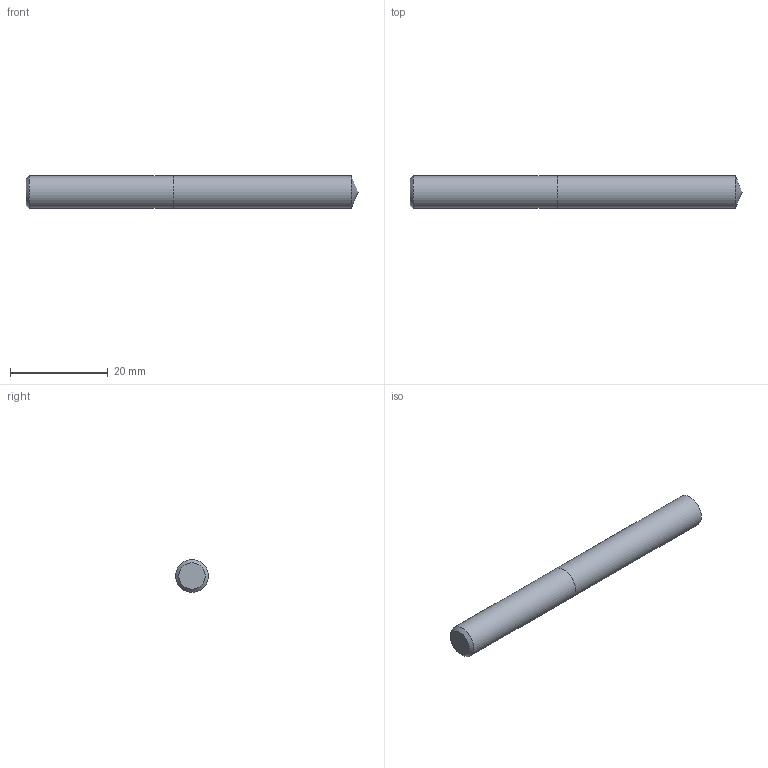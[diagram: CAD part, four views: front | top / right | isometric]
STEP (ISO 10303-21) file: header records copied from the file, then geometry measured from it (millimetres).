
FILE_DESCRIPTION (( 'STEP AP214' ), '1' );
FILE_NAME ('03-2416.STEP', '2022-06-03T07:28:58', ( 'USER' ), ( '' ), 'SwSTEP 2.0', 'SolidWorks 2018', '' );
FILE_SCHEMA (( 'AUTOMOTIVE_DESIGN' ));
Length unit declared in the file: inch
Products named in the file (1): 03-2416
Bounding box: 68.07 x 6.75 x 6.75 mm (x, y, z)
Volume: 2395.9 mm3; surface area: 1550.2 mm2
Topology: 2 solids, 2 shells, 7 faces, 11 edges, 7 vertices
Faces by surface type: plane 3, cylinder 2, cone 2
Full cylindrical faces by diameter (mm): 6.747 x2
Entity records: 214 total; most frequent: DIRECTION 26, CARTESIAN_POINT 18, AXIS2_PLACEMENT_3D 13, ORIENTED_EDGE 10, EDGE_LOOP 10, FACE_OUTER_BOUND 9, LENGTH_MEASURE_WITH_UNIT 7, DIMENSIONAL_EXPONENTS 7
